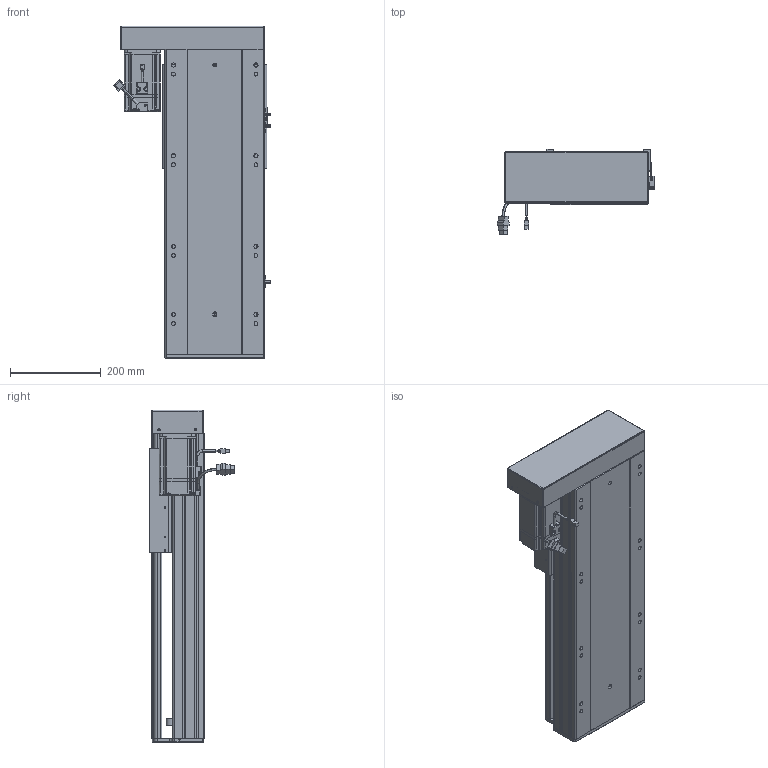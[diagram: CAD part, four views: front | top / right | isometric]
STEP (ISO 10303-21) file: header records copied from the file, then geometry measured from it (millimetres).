
FILE_DESCRIPTION (( 'STEP AP203' ), '1' );
FILE_NAME ('RY220-L2525-300-LK.SLDASM_350.step', '2022-07-04T01:46:23', ( '' ), ( '' ), 'SwSTEP 2.0', 'SolidWorks 2016', '' );
FILE_SCHEMA (( 'CONFIG_CONTROL_DESIGN' ));
Length unit declared in the file: millimetre
Products named in the file (12): RY220酘衵殏萇儂欶; 滅袉蝶18-10; 滅袉蝶18-15; RY220-L2525-300-LK.SLDASM_350; RY220半封闭25-32螺母铝滑块; RY220蛌殏菁釱-300_350; RY220綴裔啣; 覜茼ん672; RY220-俋离672覜茼んえ; 怢湛750W_ECMA-CX0807ES; RY220-300-蛌殏奻裔啣_350; RY220左右折电机安装板
Assembly tree (15 placements, depth 2):
  RY220-L2525-300-LK.SLDASM_350
    RY220蛌殏菁釱-300_350
    RY220-300-蛌殏奻裔啣_350
    怢湛750W_ECMA-CX0807ES
    滅袉蝶18-10  x2
    RY220-俋离672覜茼んえ
    覜茼ん672  x3
    RY220綴裔啣
    RY220半封闭25-32螺母铝滑块
    滅袉蝶18-15  x2
    RY220左右折电机安装板
    RY220酘衵殏萇儂欶
Bounding box: 347.44 x 189.27 x 732 mm (x, y, z)
Volume: 7355096.1 mm3; surface area: 2005746.3 mm2
Topology: 16 solids, 16 shells, 2009 faces, 5536 edges, 3529 vertices
Faces by surface type: plane 896, cylinder 873, cone 170, bspline 44, sphere 16, torus 10
Entity records: 66253 total; most frequent: CARTESIAN_POINT 19425, ORIENTED_EDGE 9760, DIRECTION 9040, EDGE_CURVE 4880, VERTEX_POINT 3185, AXIS2_PLACEMENT_3D 3131, VECTOR 2778, LINE 2778
